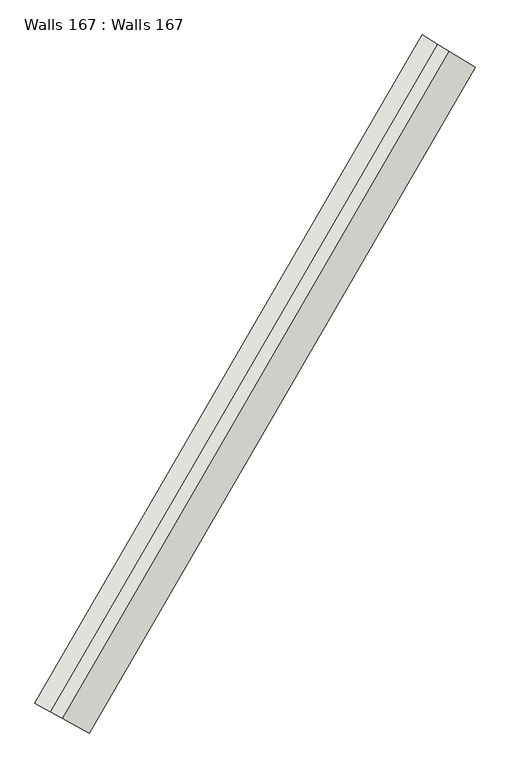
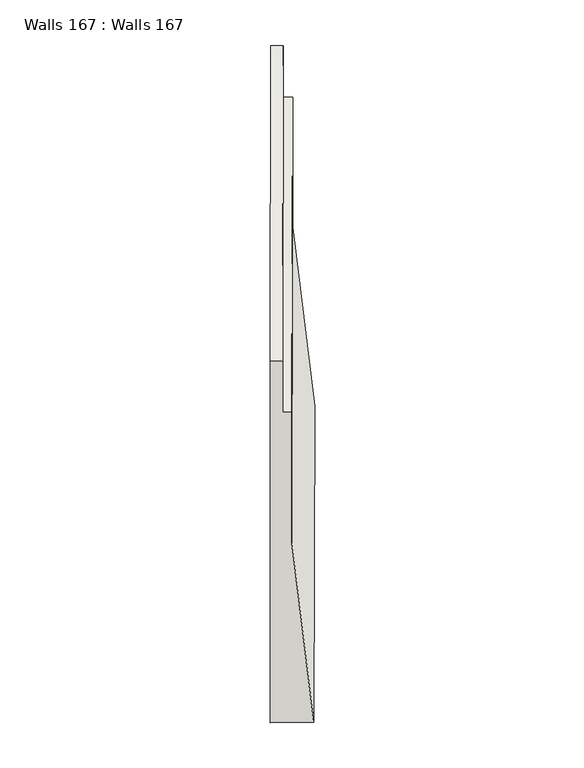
"""IFC4 building model written with IfcOpenShell, lengths in millimetres: wall geometry, Walls 167 : Walls 167."""

from ifc_helpers import new_model, si_unit, frame, origin, place, context, project, spatial, source, transform, mapped, element, save
from ifc_brep_helpers import plane_surface, spline_curve, spline_surface, advanced_brep


def walls_167_walls_167_7f9149e0(model_context):
    return source(origin(), model_context, "Body", "AdvancedBrep", [
        advanced_brep(
        [(208040.7262293, 103245.1548821, 642600.0), (207733.7216575, 103413.2268693, 646100.0), (207733.7216575, 103413.2268693, 648660.0), (207602.1482696, 103485.2577209, 648660.0), (207602.1482696, 103485.2577209, 649660.0), (207426.7170857, 103581.2988565, 649660.0), (207426.7170857, 103581.2988565, 642600.0), (212384.317628, 110743.2238994, 642700.0), (211787.2661753, 111108.6408705, 642700.0), (211787.2661753, 111108.6408705, 649740.0), (211957.8523046, 111004.2360216, 649740.0), (211957.8523046, 111004.2360216, 648740.0), (212085.7919016, 110925.932385, 648740.0), (212085.7919016, 110925.932385, 646200.0)],
        [
            (0, 1),
            (1, 2),
            (2, 3),
            (3, 4),
            (4, 5),
            (5, 6),
            (6, 0),
            (7, 8),
            (8, 9),
            (9, 10),
            (10, 11),
            (11, 12),
            (12, 13),
            (13, 7),
            (11, 3, spline_curve(3, [(211957.8523046, 111004.2360216, 648740.0), (210445.664073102, 108533.485477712, 648713.333333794), (208993.197405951, 106026.183496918, 648686.666666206), (207602.1482696, 103485.2577209, 648660.0)], [4, 4], [0.0, 28.500563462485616])),
            (2, 12, spline_curve(3, [(207733.7216575, 103413.2268693, 648660.0), (209123.610296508, 105952.03285131, 648686.666666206), (210574.865228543, 108457.243090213, 648713.333333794), (212085.7919016, 110925.932385, 648740.0)], [4, 4], [0.0, 28.500563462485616])),
            (9, 5, spline_curve(3, [(211787.2661753, 111108.6408705, 649740.0), (210273.395866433, 108635.141994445, 649713.333333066), (208819.313551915, 106125.051023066, 649686.666666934), (207426.7170857, 103581.2988565, 649660.0)], [4, 4], [0.0, 28.528312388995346])),
            (4, 10, spline_curve(3, [(207602.1482696, 103485.2577209, 649660.0), (208993.197405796, 106026.183496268, 649686.666666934), (210445.664073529, 108533.485477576, 649713.333333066), (211957.8523046, 111004.2360216, 649740.0)], [4, 4], [0.0, 28.528312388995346])),
            (8, 6, spline_curve(3, [(211787.2661753, 111108.6408705, 642700.0), (210273.395866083, 108635.141994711, 642666.666666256), (208819.313551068, 106125.051023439, 642633.333333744), (207426.7170857, 103581.2988565, 642600.0)], [4, 4], [0.0, 28.544489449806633])),
            (7, 0, spline_curve(3, [(212384.317628, 110743.2238994, 642700.0), (210876.334592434, 108279.344185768, 642666.666666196), (209427.907041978, 105779.014679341, 642633.333333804), (208040.7262293, 103245.1548821, 642600.0)], [4, 4], [0.0, 28.489351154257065])),
            (13, 1, spline_curve(3, [(212085.7919016, 110925.932385, 646200.0), (210574.86522923, 108457.243089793, 646166.666666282), (209123.610296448, 105952.032851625, 646133.333333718), (207733.7216575, 103413.2268693, 646100.0)], [4, 4], [0.0, 28.461602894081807])),
        ],
        [
            plane_surface(frame((207652.271465, 103457.8173965, 646848.5714286), z_axis=(-0.4802056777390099, -0.8771559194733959, 0.0), x_axis=(-0.08728027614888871, 0.04778225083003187, 0.9950371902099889))),
            plane_surface(frame((212006.5911987, 110974.4060648, 646937.1428571), z_axis=(0.5220242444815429, 0.8529306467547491, 0.0), x_axis=(-0.08486977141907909, 0.051943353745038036, 0.9950371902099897))),
            spline_surface(3, 3, [[(212085.7919016, 110925.932385, 648740.0), (210574.865228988, 108457.243090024, 648713.333333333), (209123.610296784, 105952.032851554, 648686.666666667), (207733.7216575, 103413.2268693, 648660.0)], [(212043.145369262, 110952.033597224, 648740.0), (210531.79817712, 108482.657219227, 648713.333333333), (209080.139333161, 105976.749733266, 648686.666666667), (207689.863861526, 103437.237153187, 648660.0)], [(212000.498836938, 110978.134809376, 648740.0), (210488.731125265, 108508.071348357, 648713.333333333), (209036.66836956, 106001.466614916, 648686.666666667), (207646.006065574, 103461.247437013, 648660.0)], [(211957.8523046, 111004.2360216, 648740.0), (210445.664073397, 108533.48547756, 648713.333333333), (208993.197405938, 106026.183496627, 648686.666666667), (207602.1482696, 103485.2577209, 648660.0)]], [4, 4], [4, 4], [0.0, 0.49212597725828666], [0.0, 28.500563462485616]),
            spline_surface(3, 3, [[(211957.8523046, 111004.2360216, 649740.0), (210445.664073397, 108533.48547756, 649713.333333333), (208993.197405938, 106026.183496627, 649686.666666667), (207602.1482696, 103485.2577209, 649660.0)], [(211900.990261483, 111039.037637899, 649740.0), (210388.241337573, 108567.370983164, 649713.333333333), (208935.236121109, 106059.139338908, 649686.666666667), (207543.671208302, 103517.271432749, 649660.0)], [(211844.128218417, 111073.839254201, 649740.0), (210330.8186018, 108601.256488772, 649713.333333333), (208877.274836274, 106092.095181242, 649686.666666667), (207485.194146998, 103549.285144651, 649660.0)], [(211787.2661753, 111108.6408705, 649740.0), (210273.395865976, 108635.141994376, 649713.333333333), (208819.313551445, 106125.051023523, 649686.666666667), (207426.7170857, 103581.2988565, 649660.0)]], [4, 4], [4, 4], [0.0, 0.6561679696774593], [0.0, 28.528312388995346]),
            spline_surface(3, 3, [[(211787.2661753, 111108.6408705, 649740.0), (210273.395865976, 108635.141994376, 649713.333333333), (208819.313551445, 106125.051023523, 649686.666666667), (207426.7170857, 103581.2988565, 649660.0)], [(211787.2661753, 111108.6408705, 647393.333333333), (210273.395865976, 108635.141994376, 647364.444444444), (208819.313551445, 106125.051023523, 647335.555555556), (207426.7170857, 103581.2988565, 647306.666666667)], [(211787.2661753, 111108.6408705, 645046.666666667), (210273.395865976, 108635.141994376, 645015.555555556), (208819.313551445, 106125.051023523, 644984.444444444), (207426.7170857, 103581.2988565, 644953.333333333)], [(211787.2661753, 111108.6408705, 642700.0), (210273.395865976, 108635.141994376, 642666.666666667), (208819.313551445, 106125.051023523, 642633.333333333), (207426.7170857, 103581.2988565, 642600.0)]], [4, 4], [4, 4], [0.0, 23.12992125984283], [0.0, 28.544489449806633]),
            spline_surface(3, 3, [[(211787.2661753, 111108.6408705, 642700.0), (210273.395865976, 108635.141994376, 642666.666666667), (208819.313551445, 106125.051023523, 642633.333333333), (207426.7170857, 103581.2988565, 642600.0)], [(211986.283326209, 110986.835213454, 642700.0), (210474.37544136, 108516.542724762, 642666.666666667), (209022.178048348, 106009.705575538, 642633.333333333), (207631.386800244, 103469.250865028, 642600.0)], [(212185.300477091, 110865.029556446, 642700.0), (210675.355016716, 108397.943455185, 642666.666666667), (209225.042545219, 105894.360127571, 642633.333333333), (207836.056514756, 103357.202873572, 642600.0)], [(212384.317628, 110743.2238994, 642700.0), (210876.334592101, 108279.344185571, 642666.666666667), (209427.907042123, 105779.014679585, 642633.333333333), (208040.7262293, 103245.1548821, 642600.0)]], [4, 4], [4, 4], [0.0, 2.2965878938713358], [0.0, 28.489351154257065]),
            spline_surface(3, 3, [[(212384.317628, 110743.2238994, 642700.0), (210876.334592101, 108279.344185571, 642666.666666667), (209427.907042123, 105779.014679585, 642633.333333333), (208040.7262293, 103245.1548821, 642600.0)], [(212284.809052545, 110804.126727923, 643866.666666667), (210775.844804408, 108338.643820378, 643833.333333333), (209326.474793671, 105836.687403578, 643800.0), (207938.391372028, 103301.178877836, 643766.666666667)], [(212185.300477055, 110865.029556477, 645033.333333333), (210675.35501668, 108397.943455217, 645000.0), (209225.042545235, 105894.360127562, 644966.666666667), (207836.056514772, 103357.202873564, 644933.333333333)], [(212085.7919016, 110925.932385, 646200.0), (210574.865228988, 108457.243090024, 646166.666666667), (209123.610296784, 105952.032851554, 646133.333333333), (207733.7216575, 103413.2268693, 646100.0)]], [4, 4], [4, 4], [0.0, 11.540211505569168], [0.0, 28.461602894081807]),
            spline_surface(3, 3, [[(212085.7919016, 110925.932385, 646200.0), (210574.865228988, 108457.243090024, 646166.666666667), (209123.610296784, 105952.032851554, 646133.333333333), (207733.7216575, 103413.2268693, 646100.0)], [(212085.7919016, 110925.932385, 647046.666666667), (210574.865228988, 108457.243090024, 647015.555555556), (209123.610296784, 105952.032851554, 646984.444444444), (207733.7216575, 103413.2268693, 646953.333333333)], [(212085.7919016, 110925.932385, 647893.333333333), (210574.865228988, 108457.243090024, 647864.444444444), (209123.610296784, 105952.032851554, 647835.555555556), (207733.7216575, 103413.2268693, 647806.666666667)], [(212085.7919016, 110925.932385, 648740.0), (210574.865228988, 108457.243090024, 648713.333333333), (209123.610296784, 105952.032851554, 648686.666666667), (207733.7216575, 103413.2268693, 648660.0)]], [4, 4], [4, 4], [0.0, 8.366141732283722], [0.0, 28.48899222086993]),
            spline_surface(3, 3, [[(211957.8523046, 111004.2360216, 648740.0), (210445.664073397, 108533.48547756, 648713.333333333), (208993.197405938, 106026.183496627, 648686.666666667), (207602.1482696, 103485.2577209, 648660.0)], [(211957.8523046, 111004.2360216, 649073.333333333), (210445.664073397, 108533.48547756, 649046.666666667), (208993.197405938, 106026.183496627, 649020.0), (207602.1482696, 103485.2577209, 648993.333333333)], [(211957.8523046, 111004.2360216, 649406.666666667), (210445.664073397, 108533.48547756, 649380.0), (208993.197405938, 106026.183496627, 649353.333333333), (207602.1482696, 103485.2577209, 649326.666666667)], [(211957.8523046, 111004.2360216, 649740.0), (210445.664073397, 108533.48547756, 649713.333333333), (208993.197405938, 106026.183496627, 649686.666666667), (207602.1482696, 103485.2577209, 649660.0)]], [4, 4], [4, 4], [0.0, 3.280839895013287], [0.0, 28.51245585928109]),
        ],
        [
            (0, [[1, 2, 3, 4, 5, 6, 7]]),
            (1, [[8, 9, 10, 11, 12, 13, 14]]),
            (2, [[-12, 15, -3, 16]]),
            (3, [[-10, 17, -5, 18]]),
            (4, [[-9, 19, -6, -17]]),
            (5, [[-8, 20, -7, -19]]),
            (6, [[-14, 21, -1, -20]]),
            (7, [[-13, -16, -2, -21]]),
            (8, [[-11, -18, -4, -15]]),
        ],
    ),
    ])


if __name__ == "__main__":
    model = new_model("IFC4")
    model_context = context("Model", 3, world=origin())
    ifc_project = project(units=[si_unit("LENGTHUNIT", "METRE", prefix="MILLI")], contexts=[model_context])
    site = spatial("IfcSite", under=ifc_project)
    building = spatial("IfcBuilding", under=site)
    placement = place(None, origin())
    walls_167_walls_167_shape = walls_167_walls_167_7f9149e0(model_context)
    element("IfcWall", 1, ObjectType="Walls 167 : Walls 167", at=placement, inside=building, context=model_context, shape_type="MappedRepresentation", body=[
        mapped(walls_167_walls_167_shape, transform((0.0, 0.0, 0.0), x_axis=(1.0, 0.0, 0.0), y_axis=(0.0, 1.0, 0.0), z_axis=(0.0, 0.0, 1.0))),
    ])
    save(model, "model.ifc")
